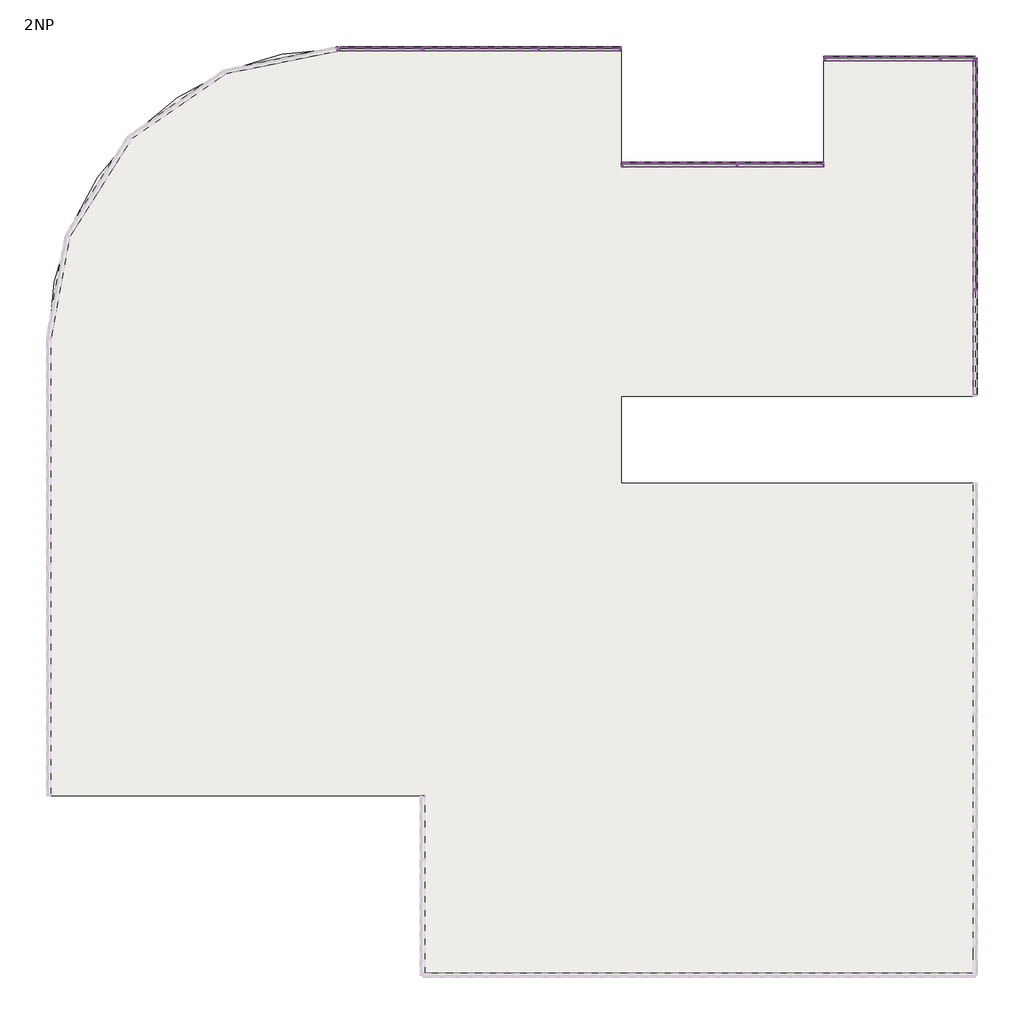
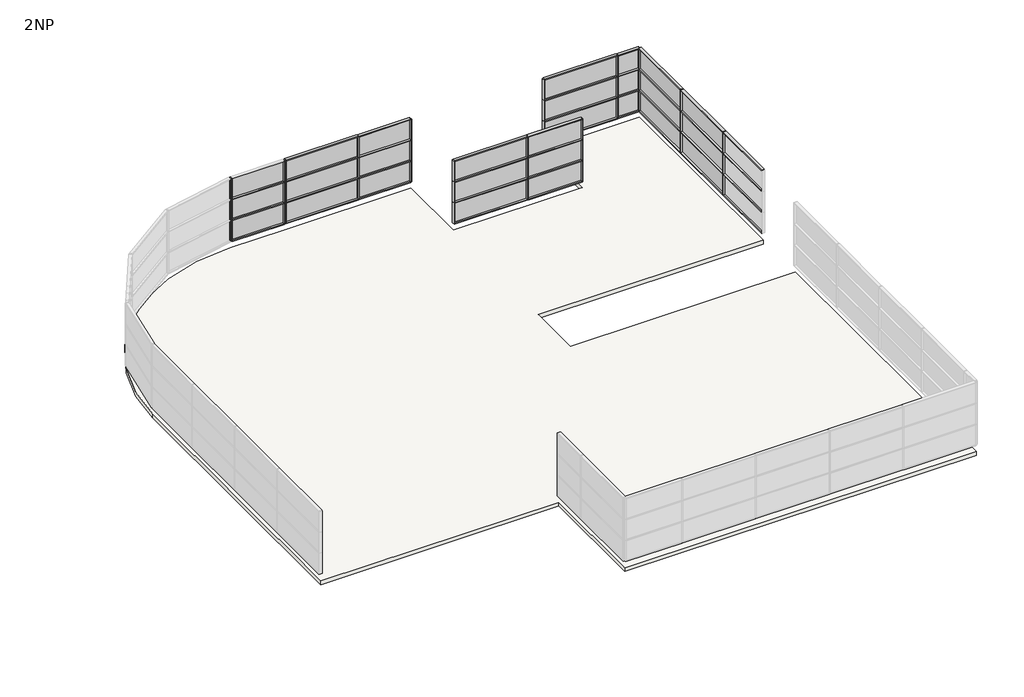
# One storey, part 3 of 3: 82 members, 27 plates, 1 slab.
"""IFC4 building model written with IfcOpenShell, lengths in millimetres."""

from ifc_helpers import new_model, si_unit, point, frame, frame_2d, origin, place, context, project, spatial, polyline, circle_curve, trimmed, segment, composite_curve, outline, extrude, transform, mapped, element, save
from components import rectangular_mullion_50_x_150mm_d99dc9be, rectangular_mullion_50_x_150mm_6588f46c, rectangular_mullion_50_x_150mm_3fe1b35e, rectangular_mullion_50_x_150mm_a037c29c, rectangular_mullion_50_x_150mm_c2546fd4, rectangular_mullion_50_x_150mm_8b4cb4b7, rectangular_mullion_50_x_150mm_185cfd49, rectangular_mullion_50_x_150mm_2fe63767, rectangular_mullion_50_x_150mm_6d604593, system_panel_glazed_8e9402eb, system_panel_glazed_89ac83a7, system_panel_glazed_e890f31e, system_panel_glazed_e3e91f99, system_panel_glazed_39d17f19, system_panel_glazed_18d93cd4

model = new_model("IFC4")

# Units and contexts
model_context = context("Model", 3, world=origin())
ifc_project = project(units=[si_unit("LENGTHUNIT", "METRE", prefix="MILLI")], contexts=[model_context])

# Site, building, storey
site = spatial("IfcSite", under=ifc_project)
building = spatial("IfcBuilding", under=site)
storey = spatial("IfcBuildingStorey", under=building, Name="2NP", Elevation=8000.0)

# Members
placement = place(None, origin())
rectangular_mullion_50_x_150mm_shape = rectangular_mullion_50_x_150mm_d99dc9be(model_context)
element("IfcMember", 1, ObjectType="Rectangular Mullion : 50 x 150mm", at=placement, inside=storey, context=model_context, shape_type="MappedRepresentation", body=[
    mapped(rectangular_mullion_50_x_150mm_shape, transform((13503.2660975, 39.3555415, 12000.0), x_axis=(0.0, -1.0, 0.0), y_axis=(1.0, 0.0, 0.0), z_axis=(0.0, 0.0, 1.0))),
])
element("IfcMember", 2, ObjectType="Rectangular Mullion : 50 x 150mm", at=placement, inside=storey, context=model_context, shape_type="MappedRepresentation", body=[
    mapped(rectangular_mullion_50_x_150mm_shape, transform((13503.2660975, 39.3555415, 10800.0), x_axis=(0.0, -1.0, 0.0), y_axis=(1.0, 0.0, 0.0), z_axis=(0.0, 0.0, 1.0))),
])
element("IfcMember", 3, ObjectType="Rectangular Mullion : 50 x 150mm", at=placement, inside=storey, context=model_context, shape_type="MappedRepresentation", body=[
    mapped(rectangular_mullion_50_x_150mm_shape, transform((13503.2660975, 39.3555415, 9600.0), x_axis=(0.0, -1.0, 0.0), y_axis=(1.0, 0.0, 0.0), z_axis=(0.0, 0.0, 1.0))),
])
element("IfcMember", 4, ObjectType="Rectangular Mullion : 50 x 150mm", at=placement, inside=storey, context=model_context, shape_type="MappedRepresentation", body=[
    mapped(rectangular_mullion_50_x_150mm_shape, transform((13503.2660975, 4039.3555415, 12000.0), x_axis=(0.0, -1.0, 0.0), y_axis=(1.0, 0.0, 0.0), z_axis=(0.0, 0.0, 1.0))),
])
element("IfcMember", 5, ObjectType="Rectangular Mullion : 50 x 150mm", at=placement, inside=storey, context=model_context, shape_type="MappedRepresentation", body=[
    mapped(rectangular_mullion_50_x_150mm_shape, transform((13503.2660975, 4039.3555415, 10800.0), x_axis=(0.0, -1.0, 0.0), y_axis=(1.0, 0.0, 0.0), z_axis=(0.0, 0.0, 1.0))),
])
element("IfcMember", 6, ObjectType="Rectangular Mullion : 50 x 150mm", at=placement, inside=storey, context=model_context, shape_type="MappedRepresentation", body=[
    mapped(rectangular_mullion_50_x_150mm_shape, transform((13503.2660975, 4039.3555415, 9600.0), x_axis=(0.0, -1.0, 0.0), y_axis=(1.0, 0.0, 0.0), z_axis=(0.0, 0.0, 1.0))),
])
element("IfcMember", 7, ObjectType="Rectangular Mullion : 50 x 150mm", at=placement, inside=storey, context=model_context, shape_type="MappedRepresentation", body=[
    mapped(rectangular_mullion_50_x_150mm_shape, transform((-1587.173406, 8375.9839566, 9600.0), x_axis=(1.0, 0.0, 0.0), y_axis=(0.0, 1.0, 0.0), z_axis=(0.0, 0.0, 1.0))),
])
element("IfcMember", 8, ObjectType="Rectangular Mullion : 50 x 150mm", at=placement, inside=storey, context=model_context, shape_type="MappedRepresentation", body=[
    mapped(rectangular_mullion_50_x_150mm_shape, transform((-1587.173406, 8375.9839566, 10800.0), x_axis=(1.0, 0.0, 0.0), y_axis=(0.0, 1.0, 0.0), z_axis=(0.0, 0.0, 1.0))),
])
element("IfcMember", 9, ObjectType="Rectangular Mullion : 50 x 150mm", at=placement, inside=storey, context=model_context, shape_type="MappedRepresentation", body=[
    mapped(rectangular_mullion_50_x_150mm_shape, transform((-1587.173406, 8375.9839566, 12000.0), x_axis=(1.0, 0.0, 0.0), y_axis=(0.0, 1.0, 0.0), z_axis=(0.0, 0.0, 1.0))),
])
element("IfcMember", 10, ObjectType="Rectangular Mullion : 50 x 150mm", at=placement, inside=storey, context=model_context, shape_type="MappedRepresentation", body=[
    mapped(rectangular_mullion_50_x_150mm_shape, transform((5278.419219, 4375.9839566, 9600.0), x_axis=(1.0, 0.0, 0.0), y_axis=(0.0, 1.0, 0.0), z_axis=(0.0, 0.0, 1.0))),
])
element("IfcMember", 11, ObjectType="Rectangular Mullion : 50 x 150mm", at=placement, inside=storey, context=model_context, shape_type="MappedRepresentation", body=[
    mapped(rectangular_mullion_50_x_150mm_shape, transform((5278.419219, 4375.9839566, 10800.0), x_axis=(1.0, 0.0, 0.0), y_axis=(0.0, 1.0, 0.0), z_axis=(0.0, 0.0, 1.0))),
])
element("IfcMember", 12, ObjectType="Rectangular Mullion : 50 x 150mm", at=placement, inside=storey, context=model_context, shape_type="MappedRepresentation", body=[
    mapped(rectangular_mullion_50_x_150mm_shape, transform((5278.419219, 4375.9839566, 12000.0), x_axis=(1.0, 0.0, 0.0), y_axis=(0.0, 1.0, 0.0), z_axis=(0.0, 0.0, 1.0))),
])
element("IfcMember", 13, ObjectType="Rectangular Mullion : 50 x 150mm", at=placement, inside=storey, context=model_context, shape_type="MappedRepresentation", body=[
    mapped(rectangular_mullion_50_x_150mm_shape, transform((12278.419219, 8039.3555415, 9600.0), x_axis=(1.0, 0.0, 0.0), y_axis=(0.0, 1.0, 0.0), z_axis=(0.0, 0.0, 1.0))),
])
element("IfcMember", 14, ObjectType="Rectangular Mullion : 50 x 150mm", at=placement, inside=storey, context=model_context, shape_type="MappedRepresentation", body=[
    mapped(rectangular_mullion_50_x_150mm_shape, transform((12278.419219, 8039.3555415, 10800.0), x_axis=(1.0, 0.0, 0.0), y_axis=(0.0, 1.0, 0.0), z_axis=(0.0, 0.0, 1.0))),
])
element("IfcMember", 15, ObjectType="Rectangular Mullion : 50 x 150mm", at=placement, inside=storey, context=model_context, shape_type="MappedRepresentation", body=[
    mapped(rectangular_mullion_50_x_150mm_shape, transform((12278.419219, 8039.3555415, 12000.0), x_axis=(1.0, 0.0, 0.0), y_axis=(0.0, 1.0, 0.0), z_axis=(0.0, 0.0, 1.0))),
])
rectangular_mullion_50_x_150mm_2_shape = rectangular_mullion_50_x_150mm_6588f46c(model_context)
element("IfcMember", 16, ObjectType="Rectangular Mullion : 50 x 150mm", at=placement, inside=storey, context=model_context, shape_type="MappedRepresentation", body=[
    mapped(rectangular_mullion_50_x_150mm_2_shape, transform((1278.419219, 8375.9839566, 9600.0), x_axis=(1.0, 0.0, 0.0), y_axis=(0.0, 1.0, 0.0), z_axis=(0.0, 0.0, 1.0))),
])
element("IfcMember", 17, ObjectType="Rectangular Mullion : 50 x 150mm", at=placement, inside=storey, context=model_context, shape_type="MappedRepresentation", body=[
    mapped(rectangular_mullion_50_x_150mm_2_shape, transform((1278.419219, 8375.9839566, 10800.0), x_axis=(1.0, 0.0, 0.0), y_axis=(0.0, 1.0, 0.0), z_axis=(0.0, 0.0, 1.0))),
])
element("IfcMember", 18, ObjectType="Rectangular Mullion : 50 x 150mm", at=placement, inside=storey, context=model_context, shape_type="MappedRepresentation", body=[
    mapped(rectangular_mullion_50_x_150mm_2_shape, transform((1278.419219, 8375.9839566, 12000.0), x_axis=(1.0, 0.0, 0.0), y_axis=(0.0, 1.0, 0.0), z_axis=(0.0, 0.0, 1.0))),
])
element("IfcMember", 19, ObjectType="Rectangular Mullion : 50 x 150mm", at=placement, inside=storey, context=model_context, shape_type="MappedRepresentation", body=[
    mapped(rectangular_mullion_50_x_150mm_2_shape, transform((8278.419219, 4375.9839566, 9600.0), x_axis=(1.0, 0.0, 0.0), y_axis=(0.0, 1.0, 0.0), z_axis=(0.0, 0.0, 1.0))),
])
element("IfcMember", 20, ObjectType="Rectangular Mullion : 50 x 150mm", at=placement, inside=storey, context=model_context, shape_type="MappedRepresentation", body=[
    mapped(rectangular_mullion_50_x_150mm_2_shape, transform((8278.419219, 4375.9839566, 10800.0), x_axis=(1.0, 0.0, 0.0), y_axis=(0.0, 1.0, 0.0), z_axis=(0.0, 0.0, 1.0))),
])
element("IfcMember", 21, ObjectType="Rectangular Mullion : 50 x 150mm", at=placement, inside=storey, context=model_context, shape_type="MappedRepresentation", body=[
    mapped(rectangular_mullion_50_x_150mm_2_shape, transform((8278.419219, 4375.9839566, 12000.0), x_axis=(1.0, 0.0, 0.0), y_axis=(0.0, 1.0, 0.0), z_axis=(0.0, 0.0, 1.0))),
])
element("IfcMember", 22, ObjectType="Rectangular Mullion : 50 x 150mm", at=placement, inside=storey, context=model_context, shape_type="MappedRepresentation", body=[
    mapped(rectangular_mullion_50_x_150mm_2_shape, transform((13503.2660975, 8039.3555415, 9600.0), x_axis=(1.0, 0.0, 0.0), y_axis=(0.0, 1.0, 0.0), z_axis=(0.0, 0.0, 1.0))),
])
element("IfcMember", 23, ObjectType="Rectangular Mullion : 50 x 150mm", at=placement, inside=storey, context=model_context, shape_type="MappedRepresentation", body=[
    mapped(rectangular_mullion_50_x_150mm_2_shape, transform((13503.2660975, 8039.3555415, 10800.0), x_axis=(1.0, 0.0, 0.0), y_axis=(0.0, 1.0, 0.0), z_axis=(0.0, 0.0, 1.0))),
])
element("IfcMember", 24, ObjectType="Rectangular Mullion : 50 x 150mm", at=placement, inside=storey, context=model_context, shape_type="MappedRepresentation", body=[
    mapped(rectangular_mullion_50_x_150mm_2_shape, transform((13503.2660975, 8039.3555415, 12000.0), x_axis=(1.0, 0.0, 0.0), y_axis=(0.0, 1.0, 0.0), z_axis=(0.0, 0.0, 1.0))),
])
element("IfcMember", 25, ObjectType="Rectangular Mullion : 50 x 150mm", at=placement, inside=storey, context=model_context, shape_type="MappedRepresentation", body=[
    mapped(rectangular_mullion_50_x_150mm_2_shape, transform((-5587.173406, 8375.9839566, 12000.0), x_axis=(1.0, 0.0, 0.0), y_axis=(0.0, 1.0, 0.0), z_axis=(0.0, 0.0, 1.0))),
])
element("IfcMember", 26, ObjectType="Rectangular Mullion : 50 x 150mm", at=placement, inside=storey, context=model_context, shape_type="MappedRepresentation", body=[
    mapped(rectangular_mullion_50_x_150mm_2_shape, transform((-5587.173406, 8375.9839566, 9600.0), x_axis=(1.0, 0.0, 0.0), y_axis=(0.0, 1.0, 0.0), z_axis=(0.0, 0.0, 1.0))),
])
element("IfcMember", 27, ObjectType="Rectangular Mullion : 50 x 150mm", at=placement, inside=storey, context=model_context, shape_type="MappedRepresentation", body=[
    mapped(rectangular_mullion_50_x_150mm_2_shape, transform((-5587.173406, 8375.9839566, 10800.0), x_axis=(1.0, 0.0, 0.0), y_axis=(0.0, 1.0, 0.0), z_axis=(0.0, 0.0, 1.0))),
])
element("IfcMember", 28, ObjectType="Rectangular Mullion : 50 x 150mm", at=placement, inside=storey, context=model_context, shape_type="MappedRepresentation", body=[
    mapped(rectangular_mullion_50_x_150mm_2_shape, transform((-8496.7339025, 8375.9839566, 9600.0), x_axis=(0.9797958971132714, 0.1999999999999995, 0.0), y_axis=(-0.1999999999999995, 0.9797958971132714, 0.0), z_axis=(0.0, 0.0, 1.0))),
])
element("IfcMember", 29, ObjectType="Rectangular Mullion : 50 x 150mm", at=placement, inside=storey, context=model_context, shape_type="MappedRepresentation", body=[
    mapped(rectangular_mullion_50_x_150mm_2_shape, transform((-8496.7339025, 8375.9839566, 10800.0), x_axis=(0.9797958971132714, 0.1999999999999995, 0.0), y_axis=(-0.1999999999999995, 0.9797958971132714, 0.0), z_axis=(0.0, 0.0, 1.0))),
])
element("IfcMember", 30, ObjectType="Rectangular Mullion : 50 x 150mm", at=placement, inside=storey, context=model_context, shape_type="MappedRepresentation", body=[
    mapped(rectangular_mullion_50_x_150mm_2_shape, transform((-8496.7339025, 8375.9839566, 12000.0), x_axis=(0.9797958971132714, 0.1999999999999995, 0.0), y_axis=(-0.1999999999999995, 0.9797958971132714, 0.0), z_axis=(0.0, 0.0, 1.0))),
])
rectangular_mullion_50_x_150mm_3_shape = rectangular_mullion_50_x_150mm_3fe1b35e(model_context)
element("IfcMember", 31, ObjectType="Rectangular Mullion : 50 x 150mm", at=placement, inside=storey, context=model_context, shape_type="MappedRepresentation", body=[
    mapped(rectangular_mullion_50_x_150mm_3_shape, transform((13503.2660975, 14.3555415, 8400.0), x_axis=(0.0, 0.0, 1.0), y_axis=(1.0, 0.0, 0.0), z_axis=(0.0, 1.0, 0.0))),
])
element("IfcMember", 32, ObjectType="Rectangular Mullion : 50 x 150mm", at=placement, inside=storey, context=model_context, shape_type="MappedRepresentation", body=[
    mapped(rectangular_mullion_50_x_150mm_3_shape, transform((13503.2660975, 14.3555415, 9600.0), x_axis=(0.0, 0.0, 1.0), y_axis=(1.0, 0.0, 0.0), z_axis=(0.0, 1.0, 0.0))),
])
element("IfcMember", 33, ObjectType="Rectangular Mullion : 50 x 150mm", at=placement, inside=storey, context=model_context, shape_type="MappedRepresentation", body=[
    mapped(rectangular_mullion_50_x_150mm_3_shape, transform((13503.2660975, 14.3555415, 10800.0), x_axis=(0.0, 0.0, 1.0), y_axis=(1.0, 0.0, 0.0), z_axis=(0.0, 1.0, 0.0))),
])
element("IfcMember", 34, ObjectType="Rectangular Mullion : 50 x 150mm", at=placement, inside=storey, context=model_context, shape_type="MappedRepresentation", body=[
    mapped(rectangular_mullion_50_x_150mm_3_shape, transform((13503.2660975, 14.3555415, 12000.0), x_axis=(0.0, 0.0, 1.0), y_axis=(1.0, 0.0, 0.0), z_axis=(0.0, 1.0, 0.0))),
])
rectangular_mullion_50_x_150mm_4_shape = rectangular_mullion_50_x_150mm_a037c29c(model_context)
element("IfcMember", 35, ObjectType="Rectangular Mullion : 50 x 150mm", at=placement, inside=storey, context=model_context, shape_type="MappedRepresentation", body=[
    mapped(rectangular_mullion_50_x_150mm_4_shape, transform((13503.2660975, 4014.3555415, 9600.0), x_axis=(0.0, 0.0, 1.0), y_axis=(1.0, 0.0, 0.0), z_axis=(0.0, 1.0, 0.0))),
])
element("IfcMember", 36, ObjectType="Rectangular Mullion : 50 x 150mm", at=placement, inside=storey, context=model_context, shape_type="MappedRepresentation", body=[
    mapped(rectangular_mullion_50_x_150mm_4_shape, transform((13503.2660975, 4014.3555415, 8400.0), x_axis=(0.0, 0.0, 1.0), y_axis=(1.0, 0.0, 0.0), z_axis=(0.0, 1.0, 0.0))),
])
element("IfcMember", 37, ObjectType="Rectangular Mullion : 50 x 150mm", at=placement, inside=storey, context=model_context, shape_type="MappedRepresentation", body=[
    mapped(rectangular_mullion_50_x_150mm_4_shape, transform((13503.2660975, 4014.3555415, 12000.0), x_axis=(0.0, 0.0, 1.0), y_axis=(1.0, 0.0, 0.0), z_axis=(0.0, 1.0, 0.0))),
])
element("IfcMember", 38, ObjectType="Rectangular Mullion : 50 x 150mm", at=placement, inside=storey, context=model_context, shape_type="MappedRepresentation", body=[
    mapped(rectangular_mullion_50_x_150mm_4_shape, transform((13503.2660975, 4014.3555415, 10800.0), x_axis=(0.0, 0.0, 1.0), y_axis=(1.0, 0.0, 0.0), z_axis=(0.0, 1.0, 0.0))),
])
rectangular_mullion_50_x_150mm_5_shape = rectangular_mullion_50_x_150mm_c2546fd4(model_context)
element("IfcMember", 39, ObjectType="Rectangular Mullion : 50 x 150mm", at=placement, inside=storey, context=model_context, shape_type="MappedRepresentation", body=[
    mapped(rectangular_mullion_50_x_150mm_5_shape, transform((13503.2660975, 7989.3555415, 9600.0), x_axis=(0.0, 0.0, 1.0), y_axis=(1.0, 0.0, 0.0), z_axis=(0.0, 1.0, 0.0))),
])
element("IfcMember", 40, ObjectType="Rectangular Mullion : 50 x 150mm", at=placement, inside=storey, context=model_context, shape_type="MappedRepresentation", body=[
    mapped(rectangular_mullion_50_x_150mm_5_shape, transform((13503.2660975, 7989.3555415, 8400.0), x_axis=(0.0, 0.0, 1.0), y_axis=(1.0, 0.0, 0.0), z_axis=(0.0, 1.0, 0.0))),
])
element("IfcMember", 41, ObjectType="Rectangular Mullion : 50 x 150mm", at=placement, inside=storey, context=model_context, shape_type="MappedRepresentation", body=[
    mapped(rectangular_mullion_50_x_150mm_5_shape, transform((13503.2660975, 7989.3555415, 10800.0), x_axis=(0.0, 0.0, 1.0), y_axis=(1.0, 0.0, 0.0), z_axis=(0.0, 1.0, 0.0))),
])
element("IfcMember", 42, ObjectType="Rectangular Mullion : 50 x 150mm", at=placement, inside=storey, context=model_context, shape_type="MappedRepresentation", body=[
    mapped(rectangular_mullion_50_x_150mm_5_shape, transform((13503.2660975, 7989.3555415, 12000.0), x_axis=(0.0, 0.0, 1.0), y_axis=(1.0, 0.0, 0.0), z_axis=(0.0, 1.0, 0.0))),
])
element("IfcMember", 43, ObjectType="Rectangular Mullion : 50 x 150mm", at=placement, inside=storey, context=model_context, shape_type="MappedRepresentation", body=[
    mapped(rectangular_mullion_50_x_150mm_5_shape, transform((-5537.173406, 8375.9839566, 12000.0), x_axis=(0.0, 0.0, 1.0), y_axis=(0.0, 1.0, 0.0), z_axis=(-1.0, 0.0, 0.0))),
])
element("IfcMember", 44, ObjectType="Rectangular Mullion : 50 x 150mm", at=placement, inside=storey, context=model_context, shape_type="MappedRepresentation", body=[
    mapped(rectangular_mullion_50_x_150mm_5_shape, transform((-5537.173406, 8375.9839566, 8400.0), x_axis=(0.0, 0.0, 1.0), y_axis=(0.0, 1.0, 0.0), z_axis=(-1.0, 0.0, 0.0))),
])
element("IfcMember", 45, ObjectType="Rectangular Mullion : 50 x 150mm", at=placement, inside=storey, context=model_context, shape_type="MappedRepresentation", body=[
    mapped(rectangular_mullion_50_x_150mm_5_shape, transform((-5537.173406, 8375.9839566, 9600.0), x_axis=(0.0, 0.0, 1.0), y_axis=(0.0, 1.0, 0.0), z_axis=(-1.0, 0.0, 0.0))),
])
element("IfcMember", 46, ObjectType="Rectangular Mullion : 50 x 150mm", at=placement, inside=storey, context=model_context, shape_type="MappedRepresentation", body=[
    mapped(rectangular_mullion_50_x_150mm_5_shape, transform((-5537.173406, 8375.9839566, 10800.0), x_axis=(0.0, 0.0, 1.0), y_axis=(0.0, 1.0, 0.0), z_axis=(-1.0, 0.0, 0.0))),
])
element("IfcMember", 47, ObjectType="Rectangular Mullion : 50 x 150mm", at=placement, inside=storey, context=model_context, shape_type="MappedRepresentation", body=[
    mapped(rectangular_mullion_50_x_150mm_5_shape, transform((1328.419219, 4375.9839566, 12000.0), x_axis=(0.0, 0.0, 1.0), y_axis=(0.0, 1.0, 0.0), z_axis=(-1.0, 0.0, 0.0))),
])
element("IfcMember", 48, ObjectType="Rectangular Mullion : 50 x 150mm", at=placement, inside=storey, context=model_context, shape_type="MappedRepresentation", body=[
    mapped(rectangular_mullion_50_x_150mm_5_shape, transform((1328.419219, 4375.9839566, 8400.0), x_axis=(0.0, 0.0, 1.0), y_axis=(0.0, 1.0, 0.0), z_axis=(-1.0, 0.0, 0.0))),
])
element("IfcMember", 49, ObjectType="Rectangular Mullion : 50 x 150mm", at=placement, inside=storey, context=model_context, shape_type="MappedRepresentation", body=[
    mapped(rectangular_mullion_50_x_150mm_5_shape, transform((1328.419219, 4375.9839566, 9600.0), x_axis=(0.0, 0.0, 1.0), y_axis=(0.0, 1.0, 0.0), z_axis=(-1.0, 0.0, 0.0))),
])
element("IfcMember", 50, ObjectType="Rectangular Mullion : 50 x 150mm", at=placement, inside=storey, context=model_context, shape_type="MappedRepresentation", body=[
    mapped(rectangular_mullion_50_x_150mm_5_shape, transform((1328.419219, 4375.9839566, 10800.0), x_axis=(0.0, 0.0, 1.0), y_axis=(0.0, 1.0, 0.0), z_axis=(-1.0, 0.0, 0.0))),
])
element("IfcMember", 51, ObjectType="Rectangular Mullion : 50 x 150mm", at=placement, inside=storey, context=model_context, shape_type="MappedRepresentation", body=[
    mapped(rectangular_mullion_50_x_150mm_5_shape, transform((8328.419219, 8039.3555415, 12000.0), x_axis=(0.0, 0.0, 1.0), y_axis=(0.0, 1.0, 0.0), z_axis=(-1.0, 0.0, 0.0))),
])
element("IfcMember", 52, ObjectType="Rectangular Mullion : 50 x 150mm", at=placement, inside=storey, context=model_context, shape_type="MappedRepresentation", body=[
    mapped(rectangular_mullion_50_x_150mm_5_shape, transform((8328.419219, 8039.3555415, 8400.0), x_axis=(0.0, 0.0, 1.0), y_axis=(0.0, 1.0, 0.0), z_axis=(-1.0, 0.0, 0.0))),
])
element("IfcMember", 53, ObjectType="Rectangular Mullion : 50 x 150mm", at=placement, inside=storey, context=model_context, shape_type="MappedRepresentation", body=[
    mapped(rectangular_mullion_50_x_150mm_5_shape, transform((8328.419219, 8039.3555415, 9600.0), x_axis=(0.0, 0.0, 1.0), y_axis=(0.0, 1.0, 0.0), z_axis=(-1.0, 0.0, 0.0))),
])
element("IfcMember", 54, ObjectType="Rectangular Mullion : 50 x 150mm", at=placement, inside=storey, context=model_context, shape_type="MappedRepresentation", body=[
    mapped(rectangular_mullion_50_x_150mm_5_shape, transform((8328.419219, 8039.3555415, 10800.0), x_axis=(0.0, 0.0, 1.0), y_axis=(0.0, 1.0, 0.0), z_axis=(-1.0, 0.0, 0.0))),
])
element("IfcMember", 55, ObjectType="Rectangular Mullion : 50 x 150mm", at=placement, inside=storey, context=model_context, shape_type="MappedRepresentation", body=[
    mapped(rectangular_mullion_50_x_150mm_2_shape, transform((13503.2660975, 8039.3555415, 10800.0), x_axis=(0.0, 1.0, 0.0), y_axis=(1.0, 0.0, 0.0), z_axis=(0.0, 0.0, -1.0))),
])
element("IfcMember", 56, ObjectType="Rectangular Mullion : 50 x 150mm", at=placement, inside=storey, context=model_context, shape_type="MappedRepresentation", body=[
    mapped(rectangular_mullion_50_x_150mm_2_shape, transform((13503.2660975, 8039.3555415, 9600.0), x_axis=(0.0, 1.0, 0.0), y_axis=(1.0, 0.0, 0.0), z_axis=(0.0, 0.0, -1.0))),
])
element("IfcMember", 57, ObjectType="Rectangular Mullion : 50 x 150mm", at=placement, inside=storey, context=model_context, shape_type="MappedRepresentation", body=[
    mapped(rectangular_mullion_50_x_150mm_2_shape, transform((13503.2660975, 8039.3555415, 8400.0), x_axis=(0.0, 1.0, 0.0), y_axis=(1.0, 0.0, 0.0), z_axis=(0.0, 0.0, -1.0))),
])
element("IfcMember", 58, ObjectType="Rectangular Mullion : 50 x 150mm", at=placement, inside=storey, context=model_context, shape_type="MappedRepresentation", body=[
    mapped(rectangular_mullion_50_x_150mm_2_shape, transform((-5587.173406, 8375.9839566, 8400.0), x_axis=(-1.0, 0.0, 0.0), y_axis=(0.0, 1.0, 0.0), z_axis=(0.0, 0.0, -1.0))),
])
element("IfcMember", 59, ObjectType="Rectangular Mullion : 50 x 150mm", at=placement, inside=storey, context=model_context, shape_type="MappedRepresentation", body=[
    mapped(rectangular_mullion_50_x_150mm_2_shape, transform((-5587.173406, 8375.9839566, 9600.0), x_axis=(-1.0, 0.0, 0.0), y_axis=(0.0, 1.0, 0.0), z_axis=(0.0, 0.0, -1.0))),
])
element("IfcMember", 60, ObjectType="Rectangular Mullion : 50 x 150mm", at=placement, inside=storey, context=model_context, shape_type="MappedRepresentation", body=[
    mapped(rectangular_mullion_50_x_150mm_2_shape, transform((-5587.173406, 8375.9839566, 10800.0), x_axis=(-1.0, 0.0, 0.0), y_axis=(0.0, 1.0, 0.0), z_axis=(0.0, 0.0, -1.0))),
])
element("IfcMember", 61, ObjectType="Rectangular Mullion : 50 x 150mm", at=placement, inside=storey, context=model_context, shape_type="MappedRepresentation", body=[
    mapped(rectangular_mullion_50_x_150mm_2_shape, transform((1278.419219, 4375.9839566, 8400.0), x_axis=(-1.0, 0.0, 0.0), y_axis=(0.0, 1.0, 0.0), z_axis=(0.0, 0.0, -1.0))),
])
element("IfcMember", 62, ObjectType="Rectangular Mullion : 50 x 150mm", at=placement, inside=storey, context=model_context, shape_type="MappedRepresentation", body=[
    mapped(rectangular_mullion_50_x_150mm_2_shape, transform((1278.419219, 4375.9839566, 9600.0), x_axis=(-1.0, 0.0, 0.0), y_axis=(0.0, 1.0, 0.0), z_axis=(0.0, 0.0, -1.0))),
])
element("IfcMember", 63, ObjectType="Rectangular Mullion : 50 x 150mm", at=placement, inside=storey, context=model_context, shape_type="MappedRepresentation", body=[
    mapped(rectangular_mullion_50_x_150mm_2_shape, transform((1278.419219, 4375.9839566, 10800.0), x_axis=(-1.0, 0.0, 0.0), y_axis=(0.0, 1.0, 0.0), z_axis=(0.0, 0.0, -1.0))),
])
element("IfcMember", 64, ObjectType="Rectangular Mullion : 50 x 150mm", at=placement, inside=storey, context=model_context, shape_type="MappedRepresentation", body=[
    mapped(rectangular_mullion_50_x_150mm_2_shape, transform((8278.419219, 8039.3555415, 8400.0), x_axis=(-1.0, 0.0, 0.0), y_axis=(0.0, 1.0, 0.0), z_axis=(0.0, 0.0, -1.0))),
])
element("IfcMember", 65, ObjectType="Rectangular Mullion : 50 x 150mm", at=placement, inside=storey, context=model_context, shape_type="MappedRepresentation", body=[
    mapped(rectangular_mullion_50_x_150mm_2_shape, transform((8278.419219, 8039.3555415, 9600.0), x_axis=(-1.0, 0.0, 0.0), y_axis=(0.0, 1.0, 0.0), z_axis=(0.0, 0.0, -1.0))),
])
element("IfcMember", 66, ObjectType="Rectangular Mullion : 50 x 150mm", at=placement, inside=storey, context=model_context, shape_type="MappedRepresentation", body=[
    mapped(rectangular_mullion_50_x_150mm_2_shape, transform((8278.419219, 8039.3555415, 10800.0), x_axis=(-1.0, 0.0, 0.0), y_axis=(0.0, 1.0, 0.0), z_axis=(0.0, 0.0, -1.0))),
])
element("IfcMember", 67, ObjectType="Rectangular Mullion : 50 x 150mm", at=placement, inside=storey, context=model_context, shape_type="MappedRepresentation", body=[
    mapped(rectangular_mullion_50_x_150mm_2_shape, transform((-8496.7339025, 8375.9839566, 10800.0), x_axis=(-1.0, 0.0, 0.0), y_axis=(0.0, 1.0, 0.0), z_axis=(0.0, 0.0, -1.0))),
])
rectangular_mullion_50_x_150mm_6_shape = rectangular_mullion_50_x_150mm_8b4cb4b7(model_context)
element("IfcMember", 68, ObjectType="Rectangular Mullion : 50 x 150mm", at=placement, inside=storey, context=model_context, shape_type="MappedRepresentation", body=[
    mapped(rectangular_mullion_50_x_150mm_6_shape, transform((-1562.173406, 8375.9839566, 10800.0), x_axis=(0.0, 0.0, 1.0), y_axis=(0.0, 1.0, 0.0), z_axis=(-1.0, 0.0, 0.0))),
])
element("IfcMember", 69, ObjectType="Rectangular Mullion : 50 x 150mm", at=placement, inside=storey, context=model_context, shape_type="MappedRepresentation", body=[
    mapped(rectangular_mullion_50_x_150mm_6_shape, transform((-1562.173406, 8375.9839566, 12000.0), x_axis=(0.0, 0.0, 1.0), y_axis=(0.0, 1.0, 0.0), z_axis=(-1.0, 0.0, 0.0))),
])
element("IfcMember", 70, ObjectType="Rectangular Mullion : 50 x 150mm", at=placement, inside=storey, context=model_context, shape_type="MappedRepresentation", body=[
    mapped(rectangular_mullion_50_x_150mm_6_shape, transform((-1562.173406, 8375.9839566, 8400.0), x_axis=(0.0, 0.0, 1.0), y_axis=(0.0, 1.0, 0.0), z_axis=(-1.0, 0.0, 0.0))),
])
element("IfcMember", 71, ObjectType="Rectangular Mullion : 50 x 150mm", at=placement, inside=storey, context=model_context, shape_type="MappedRepresentation", body=[
    mapped(rectangular_mullion_50_x_150mm_6_shape, transform((-1562.173406, 8375.9839566, 9600.0), x_axis=(0.0, 0.0, 1.0), y_axis=(0.0, 1.0, 0.0), z_axis=(-1.0, 0.0, 0.0))),
])
rectangular_mullion_50_x_150mm_7_shape = rectangular_mullion_50_x_150mm_185cfd49(model_context)
element("IfcMember", 72, ObjectType="Rectangular Mullion : 50 x 150mm", at=placement, inside=storey, context=model_context, shape_type="MappedRepresentation", body=[
    mapped(rectangular_mullion_50_x_150mm_7_shape, transform((5303.419219, 4375.9839566, 10800.0), x_axis=(0.0, 0.0, 1.0), y_axis=(0.0, 1.0, 0.0), z_axis=(-1.0, 0.0, 0.0))),
])
element("IfcMember", 73, ObjectType="Rectangular Mullion : 50 x 150mm", at=placement, inside=storey, context=model_context, shape_type="MappedRepresentation", body=[
    mapped(rectangular_mullion_50_x_150mm_7_shape, transform((5303.419219, 4375.9839566, 12000.0), x_axis=(0.0, 0.0, 1.0), y_axis=(0.0, 1.0, 0.0), z_axis=(-1.0, 0.0, 0.0))),
])
element("IfcMember", 74, ObjectType="Rectangular Mullion : 50 x 150mm", at=placement, inside=storey, context=model_context, shape_type="MappedRepresentation", body=[
    mapped(rectangular_mullion_50_x_150mm_7_shape, transform((5303.419219, 4375.9839566, 8400.0), x_axis=(0.0, 0.0, 1.0), y_axis=(0.0, 1.0, 0.0), z_axis=(-1.0, 0.0, 0.0))),
])
element("IfcMember", 75, ObjectType="Rectangular Mullion : 50 x 150mm", at=placement, inside=storey, context=model_context, shape_type="MappedRepresentation", body=[
    mapped(rectangular_mullion_50_x_150mm_7_shape, transform((5303.419219, 4375.9839566, 9600.0), x_axis=(0.0, 0.0, 1.0), y_axis=(0.0, 1.0, 0.0), z_axis=(-1.0, 0.0, 0.0))),
])
rectangular_mullion_50_x_150mm_8_shape = rectangular_mullion_50_x_150mm_2fe63767(model_context)
element("IfcMember", 76, ObjectType="Rectangular Mullion : 50 x 150mm", at=placement, inside=storey, context=model_context, shape_type="MappedRepresentation", body=[
    mapped(rectangular_mullion_50_x_150mm_8_shape, transform((12303.419219, 8039.3555415, 10800.0), x_axis=(0.0, 0.0, 1.0), y_axis=(0.0, 1.0, 0.0), z_axis=(-1.0, 0.0, 0.0))),
])
element("IfcMember", 77, ObjectType="Rectangular Mullion : 50 x 150mm", at=placement, inside=storey, context=model_context, shape_type="MappedRepresentation", body=[
    mapped(rectangular_mullion_50_x_150mm_8_shape, transform((12303.419219, 8039.3555415, 12000.0), x_axis=(0.0, 0.0, 1.0), y_axis=(0.0, 1.0, 0.0), z_axis=(-1.0, 0.0, 0.0))),
])
element("IfcMember", 78, ObjectType="Rectangular Mullion : 50 x 150mm", at=placement, inside=storey, context=model_context, shape_type="MappedRepresentation", body=[
    mapped(rectangular_mullion_50_x_150mm_8_shape, transform((12303.419219, 8039.3555415, 8400.0), x_axis=(0.0, 0.0, 1.0), y_axis=(0.0, 1.0, 0.0), z_axis=(-1.0, 0.0, 0.0))),
])
element("IfcMember", 79, ObjectType="Rectangular Mullion : 50 x 150mm", at=placement, inside=storey, context=model_context, shape_type="MappedRepresentation", body=[
    mapped(rectangular_mullion_50_x_150mm_8_shape, transform((12303.419219, 8039.3555415, 9600.0), x_axis=(0.0, 0.0, 1.0), y_axis=(0.0, 1.0, 0.0), z_axis=(-1.0, 0.0, 0.0))),
])
rectangular_mullion_50_x_150mm_9_shape = rectangular_mullion_50_x_150mm_6d604593(model_context)
element("IfcMember", 80, ObjectType="Rectangular Mullion : 50 x 150mm", at=placement, inside=storey, context=model_context, shape_type="MappedRepresentation", body=[
    mapped(rectangular_mullion_50_x_150mm_9_shape, transform((-8446.7339025, 8375.9839566, 8400.0), x_axis=(0.0, 0.0, 1.0), y_axis=(0.0, 1.0, 0.0), z_axis=(-1.0, 0.0, 0.0))),
])
element("IfcMember", 81, ObjectType="Rectangular Mullion : 50 x 150mm", at=placement, inside=storey, context=model_context, shape_type="MappedRepresentation", body=[
    mapped(rectangular_mullion_50_x_150mm_9_shape, transform((-8446.7339025, 8375.9839566, 9600.0), x_axis=(0.0, 0.0, 1.0), y_axis=(0.0, 1.0, 0.0), z_axis=(-1.0, 0.0, 0.0))),
])
element("IfcMember", 82, ObjectType="Rectangular Mullion : 50 x 150mm", at=placement, inside=storey, context=model_context, shape_type="MappedRepresentation", body=[
    mapped(rectangular_mullion_50_x_150mm_9_shape, transform((-8446.7339025, 8375.9839566, 10800.0), x_axis=(0.0, 0.0, 1.0), y_axis=(0.0, 1.0, 0.0), z_axis=(-1.0, 0.0, 0.0))),
])

# Plates
system_panel_glazed_shape = system_panel_glazed_8e9402eb(model_context)
element("IfcPlate", 83, ObjectType="System Panel : Glazed", at=placement, inside=storey, context=model_context, shape_type="MappedRepresentation", body=[
    mapped(system_panel_glazed_shape, transform((13503.2660975, 6026.8555415, 8425.0), x_axis=(0.0, -1.0, 0.0), y_axis=(1.0, 0.0, 0.0), z_axis=(0.0, 0.0, 1.0))),
])
element("IfcPlate", 84, ObjectType="System Panel : Glazed", at=placement, inside=storey, context=model_context, shape_type="MappedRepresentation", body=[
    mapped(system_panel_glazed_shape, transform((13503.2660975, 6026.8555415, 9625.0), x_axis=(0.0, -1.0, 0.0), y_axis=(1.0, 0.0, 0.0), z_axis=(0.0, 0.0, 1.0))),
])
element("IfcPlate", 85, ObjectType="System Panel : Glazed", at=placement, inside=storey, context=model_context, shape_type="MappedRepresentation", body=[
    mapped(system_panel_glazed_shape, transform((13503.2660975, 6026.8555415, 10825.0), x_axis=(0.0, -1.0, 0.0), y_axis=(1.0, 0.0, 0.0), z_axis=(0.0, 0.0, 1.0))),
])
element("IfcPlate", 86, ObjectType="System Panel : Glazed", at=placement, inside=storey, context=model_context, shape_type="MappedRepresentation", body=[
    mapped(system_panel_glazed_shape, transform((10290.919219, 8039.3555415, 8425.0), x_axis=(1.0, 0.0, 0.0), y_axis=(0.0, 1.0, 0.0), z_axis=(0.0, 0.0, 1.0))),
])
element("IfcPlate", 87, ObjectType="System Panel : Glazed", at=placement, inside=storey, context=model_context, shape_type="MappedRepresentation", body=[
    mapped(system_panel_glazed_shape, transform((10290.919219, 8039.3555415, 9625.0), x_axis=(1.0, 0.0, 0.0), y_axis=(0.0, 1.0, 0.0), z_axis=(0.0, 0.0, 1.0))),
])
element("IfcPlate", 88, ObjectType="System Panel : Glazed", at=placement, inside=storey, context=model_context, shape_type="MappedRepresentation", body=[
    mapped(system_panel_glazed_shape, transform((10290.919219, 8039.3555415, 10825.0), x_axis=(1.0, 0.0, 0.0), y_axis=(0.0, 1.0, 0.0), z_axis=(0.0, 0.0, 1.0))),
])
element("IfcPlate", 89, ObjectType="System Panel : Glazed", at=placement, inside=storey, context=model_context, shape_type="MappedRepresentation", body=[
    mapped(system_panel_glazed_shape, transform((3290.919219, 4375.9839566, 8425.0), x_axis=(1.0, 0.0, 0.0), y_axis=(0.0, 1.0, 0.0), z_axis=(0.0, 0.0, 1.0))),
])
element("IfcPlate", 90, ObjectType="System Panel : Glazed", at=placement, inside=storey, context=model_context, shape_type="MappedRepresentation", body=[
    mapped(system_panel_glazed_shape, transform((3290.919219, 4375.9839566, 9625.0), x_axis=(1.0, 0.0, 0.0), y_axis=(0.0, 1.0, 0.0), z_axis=(0.0, 0.0, 1.0))),
])
element("IfcPlate", 91, ObjectType="System Panel : Glazed", at=placement, inside=storey, context=model_context, shape_type="MappedRepresentation", body=[
    mapped(system_panel_glazed_shape, transform((3290.919219, 4375.9839566, 10825.0), x_axis=(1.0, 0.0, 0.0), y_axis=(0.0, 1.0, 0.0), z_axis=(0.0, 0.0, 1.0))),
])
element("IfcPlate", 92, ObjectType="System Panel : Glazed", at=placement, inside=storey, context=model_context, shape_type="MappedRepresentation", body=[
    mapped(system_panel_glazed_shape, transform((-3574.673406, 8375.9839566, 8425.0), x_axis=(1.0, 0.0, 0.0), y_axis=(0.0, 1.0, 0.0), z_axis=(0.0, 0.0, 1.0))),
])
element("IfcPlate", 93, ObjectType="System Panel : Glazed", at=placement, inside=storey, context=model_context, shape_type="MappedRepresentation", body=[
    mapped(system_panel_glazed_shape, transform((-3574.673406, 8375.9839566, 9625.0), x_axis=(1.0, 0.0, 0.0), y_axis=(0.0, 1.0, 0.0), z_axis=(0.0, 0.0, 1.0))),
])
element("IfcPlate", 94, ObjectType="System Panel : Glazed", at=placement, inside=storey, context=model_context, shape_type="MappedRepresentation", body=[
    mapped(system_panel_glazed_shape, transform((-3574.673406, 8375.9839566, 10825.0), x_axis=(1.0, 0.0, 0.0), y_axis=(0.0, 1.0, 0.0), z_axis=(0.0, 0.0, 1.0))),
])
system_panel_glazed_2_shape = system_panel_glazed_89ac83a7(model_context)
element("IfcPlate", 95, ObjectType="System Panel : Glazed", at=placement, inside=storey, context=model_context, shape_type="MappedRepresentation", body=[
    mapped(system_panel_glazed_2_shape, transform((13503.2660975, 2039.3555415, 8425.0), x_axis=(0.0, -1.0, 0.0), y_axis=(1.0, 0.0, 0.0), z_axis=(0.0, 0.0, 1.0))),
])
element("IfcPlate", 96, ObjectType="System Panel : Glazed", at=placement, inside=storey, context=model_context, shape_type="MappedRepresentation", body=[
    mapped(system_panel_glazed_2_shape, transform((13503.2660975, 2039.3555415, 9625.0), x_axis=(0.0, -1.0, 0.0), y_axis=(1.0, 0.0, 0.0), z_axis=(0.0, 0.0, 1.0))),
])
element("IfcPlate", 97, ObjectType="System Panel : Glazed", at=placement, inside=storey, context=model_context, shape_type="MappedRepresentation", body=[
    mapped(system_panel_glazed_2_shape, transform((13503.2660975, 2039.3555415, 10825.0), x_axis=(0.0, -1.0, 0.0), y_axis=(1.0, 0.0, 0.0), z_axis=(0.0, 0.0, 1.0))),
])
system_panel_glazed_3_shape = system_panel_glazed_e890f31e(model_context)
element("IfcPlate", 98, ObjectType="System Panel : Glazed", at=placement, inside=storey, context=model_context, shape_type="MappedRepresentation", body=[
    mapped(system_panel_glazed_3_shape, transform((-166.8770935, 8375.9839566, 8425.0), x_axis=(1.0, 0.0, 0.0), y_axis=(0.0, 1.0, 0.0), z_axis=(0.0, 0.0, 1.0))),
])
element("IfcPlate", 99, ObjectType="System Panel : Glazed", at=placement, inside=storey, context=model_context, shape_type="MappedRepresentation", body=[
    mapped(system_panel_glazed_3_shape, transform((-166.8770935, 8375.9839566, 9625.0), x_axis=(1.0, 0.0, 0.0), y_axis=(0.0, 1.0, 0.0), z_axis=(0.0, 0.0, 1.0))),
])
element("IfcPlate", 100, ObjectType="System Panel : Glazed", at=placement, inside=storey, context=model_context, shape_type="MappedRepresentation", body=[
    mapped(system_panel_glazed_3_shape, transform((-166.8770935, 8375.9839566, 10825.0), x_axis=(1.0, 0.0, 0.0), y_axis=(0.0, 1.0, 0.0), z_axis=(0.0, 0.0, 1.0))),
])
system_panel_glazed_4_shape = system_panel_glazed_e3e91f99(model_context)
element("IfcPlate", 101, ObjectType="System Panel : Glazed", at=placement, inside=storey, context=model_context, shape_type="MappedRepresentation", body=[
    mapped(system_panel_glazed_4_shape, transform((6765.919219, 4375.9839566, 8425.0), x_axis=(1.0, 0.0, 0.0), y_axis=(0.0, 1.0, 0.0), z_axis=(0.0, 0.0, 1.0))),
])
element("IfcPlate", 102, ObjectType="System Panel : Glazed", at=placement, inside=storey, context=model_context, shape_type="MappedRepresentation", body=[
    mapped(system_panel_glazed_4_shape, transform((6765.919219, 4375.9839566, 9625.0), x_axis=(1.0, 0.0, 0.0), y_axis=(0.0, 1.0, 0.0), z_axis=(0.0, 0.0, 1.0))),
])
element("IfcPlate", 103, ObjectType="System Panel : Glazed", at=placement, inside=storey, context=model_context, shape_type="MappedRepresentation", body=[
    mapped(system_panel_glazed_4_shape, transform((6765.919219, 4375.9839566, 10825.0), x_axis=(1.0, 0.0, 0.0), y_axis=(0.0, 1.0, 0.0), z_axis=(0.0, 0.0, 1.0))),
])
system_panel_glazed_5_shape = system_panel_glazed_39d17f19(model_context)
element("IfcPlate", 104, ObjectType="System Panel : Glazed", at=placement, inside=storey, context=model_context, shape_type="MappedRepresentation", body=[
    mapped(system_panel_glazed_5_shape, transform((12878.3426582, 8039.3555415, 8425.0), x_axis=(1.0, 0.0, 0.0), y_axis=(0.0, 1.0, 0.0), z_axis=(0.0, 0.0, 1.0))),
])
element("IfcPlate", 105, ObjectType="System Panel : Glazed", at=placement, inside=storey, context=model_context, shape_type="MappedRepresentation", body=[
    mapped(system_panel_glazed_5_shape, transform((12878.3426582, 8039.3555415, 9625.0), x_axis=(1.0, 0.0, 0.0), y_axis=(0.0, 1.0, 0.0), z_axis=(0.0, 0.0, 1.0))),
])
element("IfcPlate", 106, ObjectType="System Panel : Glazed", at=placement, inside=storey, context=model_context, shape_type="MappedRepresentation", body=[
    mapped(system_panel_glazed_5_shape, transform((12878.3426582, 8039.3555415, 10825.0), x_axis=(1.0, 0.0, 0.0), y_axis=(0.0, 1.0, 0.0), z_axis=(0.0, 0.0, 1.0))),
])
system_panel_glazed_6_shape = system_panel_glazed_18d93cd4(model_context)
element("IfcPlate", 107, ObjectType="System Panel : Glazed", at=placement, inside=storey, context=model_context, shape_type="MappedRepresentation", body=[
    mapped(system_panel_glazed_6_shape, transform((-7041.9536543, 8375.9839566, 8425.0), x_axis=(1.0, 0.0, 0.0), y_axis=(0.0, 1.0, 0.0), z_axis=(0.0, 0.0, 1.0))),
])
element("IfcPlate", 108, ObjectType="System Panel : Glazed", at=placement, inside=storey, context=model_context, shape_type="MappedRepresentation", body=[
    mapped(system_panel_glazed_6_shape, transform((-7041.9536543, 8375.9839566, 9625.0), x_axis=(1.0, 0.0, 0.0), y_axis=(0.0, 1.0, 0.0), z_axis=(0.0, 0.0, 1.0))),
])
element("IfcPlate", 109, ObjectType="System Panel : Glazed", at=placement, inside=storey, context=model_context, shape_type="MappedRepresentation", body=[
    mapped(system_panel_glazed_6_shape, transform((-7041.9536543, 8375.9839566, 10825.0), x_axis=(1.0, 0.0, 0.0), y_axis=(0.0, 1.0, 0.0), z_axis=(0.0, 0.0, 1.0))),
])

# Slab
element("IfcSlab", 110, ObjectType="Insitu Concrete 225mm", at=placement, inside=storey, context=model_context, shape_type="SweptSolid", body=[
    extrude(outline(composite_curve([segment(polyline([(-18496.7339025, -17423.5291324), (-18496.7339025, -1624.0160434)]), True, "CONTINUOUS"), segment(trimmed(circle_curve(frame_2d((-8496.7339025, -1624.0160434)), 10000.0), [point((-18496.7339025, -1624.0160434))], [point((-8496.7339025, 8375.9839566))], False, "CARTESIAN"), True, "CONTINUOUS"), segment(polyline([(-8496.7339025, 8375.9839566), (-5587.173406, 8375.9839566), (1278.419219, 8375.9839566), (1278.419219, 4375.9839566), (8278.419219, 4375.9839566), (8278.419219, 8039.3555415), (13503.2660975, 8039.3555415), (13503.2660975, -3624.0160434), (1278.419219, -3624.0160434), (1278.419219, -6624.0160434), (13503.2660975, -6624.0160434), (13503.2660975, -23624.0160434), (-5587.173406, -23624.0160434), (-5587.173406, -17423.5291324), (-18496.7339025, -17423.5291324)]), True, "CONTINUOUS")], self_intersect=False)), frame((0.0, 0.0, 7775.0), z_axis=(0.0, 0.0, 1.0), x_axis=(1.0, 0.0, 0.0)), (0.0, 0.0, 1.0), 225.0),
])

save(model, "model.ifc")
